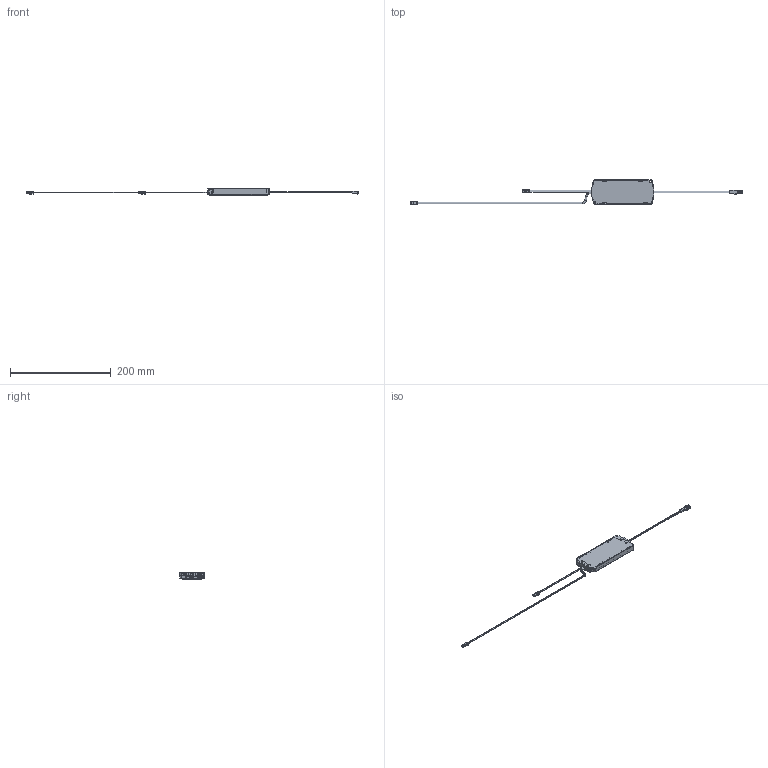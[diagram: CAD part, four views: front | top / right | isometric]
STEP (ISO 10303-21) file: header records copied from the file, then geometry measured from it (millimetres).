
FILE_DESCRIPTION (( 'STEP AP203' ), '1' );
FILE_NAME ('Repeater_für_Dimmer_12VDC_24.STEP', '2024-12-03T05:54:38', ( '' ), ( '' ), 'SwSTEP 2.0', 'SolidWorks 2023', '' );
FILE_SCHEMA (( 'CONFIG_CONTROL_DESIGN' ));
Length unit declared in the file: millimetre
Products named in the file (8): 1916503_Pr1251_Mini_Stecker_LED_sw_VA_Kabel 130 mm; HJ-12W-G01_49_2024; 1916503_Pr1251_Mini_Stecker_LED_sw_VA_gebog.; Dimmer_Gehaeuse_12V; Deckel_Dimmer_Gehaeuse; 1916504_Pr1251_Mini_Buchse_LED_sw_L=160 verz; HJ-DR-12W-FI-01_3; Repeater_für_Dimmer_12VDC_24
Assembly tree (8 placements, depth 3):
  Repeater_für_Dimmer_12VDC_24
    1916504_Pr1251_Mini_Buchse_LED_sw_L=160 verz
    1916503_Pr1251_Mini_Stecker_LED_sw_VA_gebog.
    1916503_Pr1251_Mini_Stecker_LED_sw_VA_Kabel 130 mm
    Dimmer_Gehaeuse_12V
      HJ-12W-G01_49_2024
      HJ-DR-12W-FI-01_3  x2
      Deckel_Dimmer_Gehaeuse
Bounding box: 660.37 x 49.11 x 12.82 mm (x, y, z)
Volume: 23448.4 mm3; surface area: 46559 mm2
Topology: 13 solids, 13 shells, 1371 faces, 3559 edges, 2137 vertices
Faces by surface type: plane 616, cylinder 413, bspline 132, sphere 74, torus 74, cone 62
Entity records: 43683 total; most frequent: CARTESIAN_POINT 14190, ORIENTED_EDGE 6352, DIRECTION 5421, EDGE_CURVE 3176, VERTEX_POINT 1946, AXIS2_PLACEMENT_3D 1859, VECTOR 1703, LINE 1703
